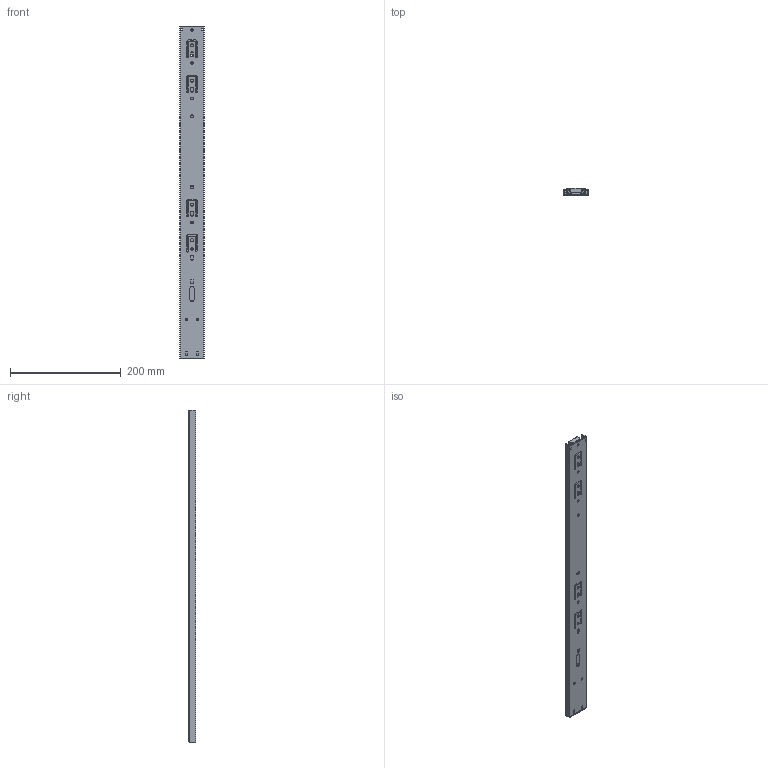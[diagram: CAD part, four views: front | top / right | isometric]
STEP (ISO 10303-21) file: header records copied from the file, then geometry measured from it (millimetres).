
FILE_DESCRIPTION(/* description */ (''),/* implementation_level */ '2;1');
FILE_NAME(/* name */ 'C:\Users\dmitruk\Documents\WORK\НАПРАВЛЯЮЩИЕ\Шариковые\Доводчик\h45 L-600 с доводчиком AKS.stp',/* time_stamp */ '2022-04-19T17:46:28+03:00',/* author */ ('dmitruk'),/* organization */ ('AKS'),/* preprocessor_version */ 'ST-DEVELOPER v16.5',/* originating_system */ 'Autodesk Inventor 2017',/* authorisation */ '');
FILE_SCHEMA (('AUTOMOTIVE_DESIGN { 1 0 10303 214 3 1 1 }','TECHNICAL_DATA_PACKAGING'));
Length unit declared in the file: millimetre
Products named in the file (6): h45 L-600 с \X2\0434043E0432043E043404470438
043A043E043C\X0\ AKS; h45 L-600 AKS_11довод; h45 L-600 AKS_12довод; h45 L-550_13; h45 L-600 AKS_довод; Доводчик
Assembly tree (5 placements, depth 2):
  h45 L-600 с \X2\0434043E0432043E043404470438
043A043E043C\X0\ AKS
    h45 L-600 AKS_11довод
    h45 L-600 AKS_12довод
    h45 L-550_13
    h45 L-600 AKS_довод
    Доводчик
Bounding box: 44 x 13 x 600 mm (x, y, z)
Volume: 106370.2 mm3; surface area: 191401.6 mm2
Topology: 5 solids, 5 shells, 938 faces, 2759 edges, 1795 vertices
Faces by surface type: plane 542, cylinder 324, sphere 72
Full cylindrical faces by diameter (mm): 4.5 x12, 5 x1, 5.5 x4, 6 x1
Entity records: 31963 total; most frequent: CARTESIAN_POINT 5843, ORIENTED_EDGE 5478, DIRECTION 5426, EDGE_CURVE 2739, LINE 1874, VECTOR 1874, VERTEX_POINT 1793, AXIS2_PLACEMENT_3D 1776
